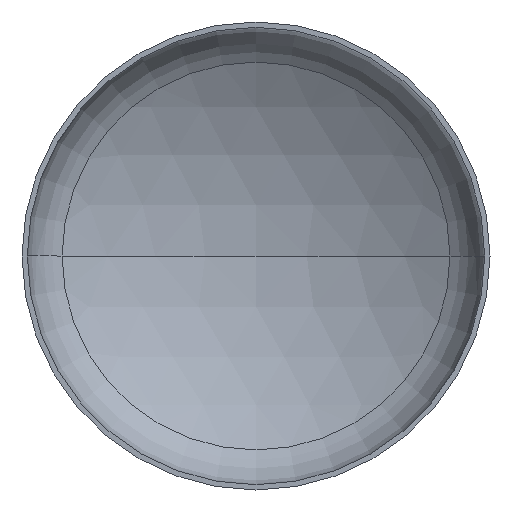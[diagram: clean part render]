
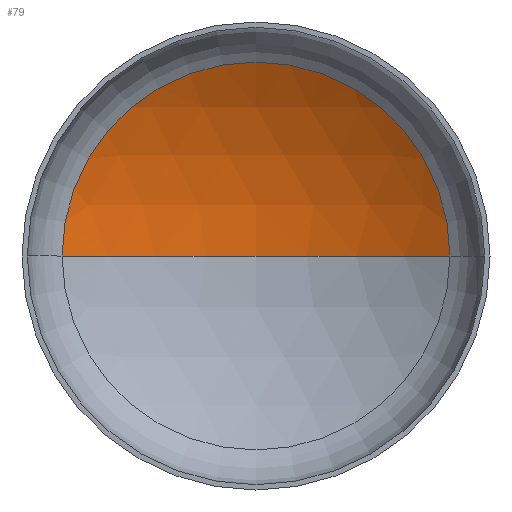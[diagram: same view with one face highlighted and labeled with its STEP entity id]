
A CAD part, front view. The second image highlights one B-rep face of the part: STEP entity #79.
In plain terms, the highlighted spherical face has radius 4800 mm.
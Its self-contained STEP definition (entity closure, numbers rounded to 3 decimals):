
#6 = CIRCLE ( 'NONE', #364, 2486.09 ) ;
#11 = ORIENTED_EDGE ( 'NONE', *, *, #152, .T. ) ;
#13 = DIRECTION ( 'NONE',  ( 0., 0., -1. ) ) ;
#15 = ORIENTED_EDGE ( 'NONE', *, *, #112, .T. ) ;
#45 = EDGE_LOOP ( 'NONE', ( #58, #15, #11 ) ) ;
#46 = VERTEX_POINT ( 'NONE', #136 ) ;
#58 = ORIENTED_EDGE ( 'NONE', *, *, #131, .F. ) ;
#70 = VERTEX_POINT ( 'NONE', #356 ) ;
#79 = ADVANCED_FACE ( 'NONE', ( #243 ), #362, .F. ) ;
#112 = EDGE_CURVE ( 'NONE', #70, #46, #113, .T. ) ;
#113 = CIRCLE ( 'NONE', #287, 4800. ) ;
#116 = VERTEX_POINT ( 'NONE', #336 ) ;
#131 = EDGE_CURVE ( 'NONE', #70, #116, #354, .T. ) ;
#136 = CARTESIAN_POINT ( 'NONE',  ( 2486.09, 911.263, 0. ) ) ;
#142 = DIRECTION ( 'NONE',  ( 0., -1., 0. ) ) ;
#144 = CARTESIAN_POINT ( 'NONE',  ( 0., 911.263, 0. ) ) ;
#152 = EDGE_CURVE ( 'NONE', #46, #116, #6, .T. ) ;
#166 = CARTESIAN_POINT ( 'NONE',  ( 0., -3194.751, 0. ) ) ;
#171 = DIRECTION ( 'NONE',  ( 1., 0., 0. ) ) ;
#175 = DIRECTION ( 'NONE',  ( 0., 0., 1. ) ) ;
#197 = DIRECTION ( 'NONE',  ( -1., 0., 0. ) ) ;
#199 = CARTESIAN_POINT ( 'NONE',  ( 0., -3194.751, 0. ) ) ;
#225 = DIRECTION ( 'NONE',  ( -1., 0., 0. ) ) ;
#227 = DIRECTION ( 'NONE',  ( 0., 0., -1. ) ) ;
#229 = CARTESIAN_POINT ( 'NONE',  ( 0., -3194.751, 0. ) ) ;
#243 = FACE_OUTER_BOUND ( 'NONE', #45, .T. ) ;
#287 = AXIS2_PLACEMENT_3D ( 'NONE', #229, #227, #225 ) ;
#307 = AXIS2_PLACEMENT_3D ( 'NONE', #199, #13, #197 ) ;
#332 = AXIS2_PLACEMENT_3D ( 'NONE', #166, #175, #171 ) ;
#336 = CARTESIAN_POINT ( 'NONE',  ( -2486.09, 911.263, 0. ) ) ;
#354 = CIRCLE ( 'NONE', #332, 4800. ) ;
#356 = CARTESIAN_POINT ( 'NONE',  ( 0., 1605.249, 0. ) ) ;
#359 = DIRECTION ( 'NONE',  ( 1., 0., 0. ) ) ;
#362 = SPHERICAL_SURFACE ( 'NONE', #307, 4800. ) ;
#364 = AXIS2_PLACEMENT_3D ( 'NONE', #144, #142, #359 ) ;
